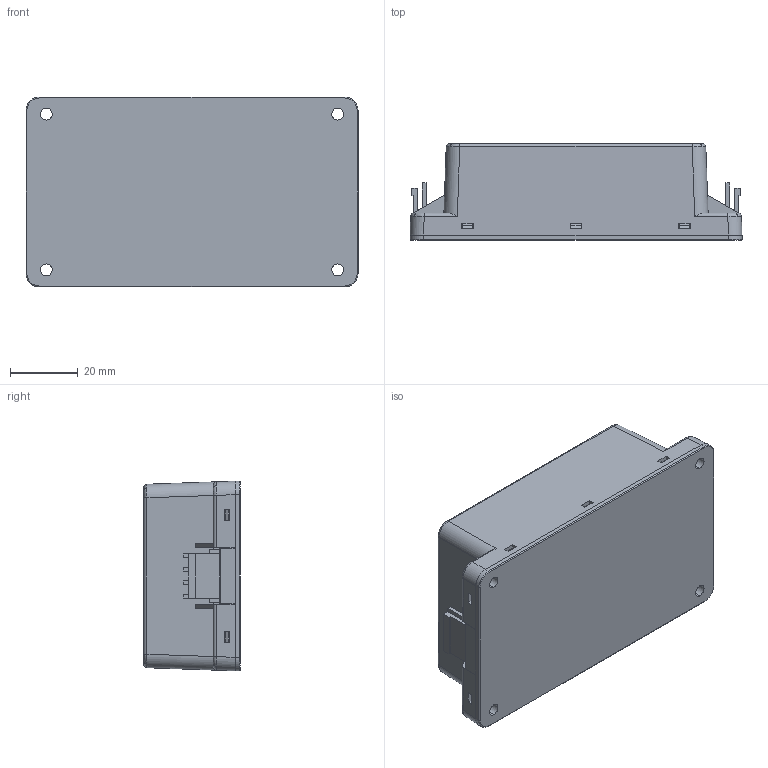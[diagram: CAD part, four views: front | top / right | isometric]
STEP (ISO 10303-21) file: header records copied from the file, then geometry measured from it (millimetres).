
FILE_DESCRIPTION (( 'STEP AP214' ), '1' );
FILE_NAME ('AMF-60S051CD(20240312).STEP', '2024-03-12T03:32:35', ( '' ), ( '' ), 'SwSTEP 2.0', 'SolidWorks 2021', '' );
FILE_SCHEMA (( 'AUTOMOTIVE_DESIGN' ));
Length unit declared in the file: millimetre
Products named in the file (9): AMF-60S051CD(20240312); AMF-60 Chassis Mounting °ÆªO²Õ¦XºÝ¤l-3D¤Ø¤o¥~Æ[¹Ï(20240311)_TRACO ºÝ¤l²Õ¦X(JST); B3P-VH; B4P-VH; (JST)-2PIN端子座; (JST)-4PIN端子座; AMF-60 Chassis Mounting BASE(082-BAMF-08)(2)-3D尺寸外觀圖(20240311); AMF-60 Chassis Mounting CASE(081-CAMF-06)(0)-3D尺寸外觀圖(20240311); AMF-60 IN_Output ¤j¥DªOPCB-3D¤Ø¤o¥~Æ[¹Ï(20240311)
Assembly tree (8 placements, depth 4):
  AMF-60S051CD(20240312)
    AMF-60 Chassis Mounting CASE(081-CAMF-06)(0)-3D尺寸外觀圖(20240311)
    AMF-60 Chassis Mounting BASE(082-BAMF-08)(2)-3D尺寸外觀圖(20240311)
    AMF-60 Chassis Mounting °ÆªO²Õ¦XºÝ¤l-3D¤Ø¤o¥~Æ[¹Ï(20240311)_TRACO ºÝ¤l²Õ¦X(JST)
      AMF-60 IN_Output ¤j¥DªOPCB-3D¤Ø¤o¥~Æ[¹Ï(20240311)
      (JST)-2PIN端子座
        B3P-VH
      (JST)-4PIN端子座
        B4P-VH
Bounding box: 98 x 28.5 x 56 mm (x, y, z)
Volume: 122639.2 mm3; surface area: 42585.8 mm2
Topology: 5 solids, 5 shells, 651 faces, 1774 edges, 1168 vertices
Faces by surface type: plane 432, cylinder 153, bspline 62, torus 4
Entity records: 23208 total; most frequent: CARTESIAN_POINT 5837, ORIENTED_EDGE 3548, DIRECTION 3134, EDGE_CURVE 1774, VECTOR 1340, LINE 1340, VERTEX_POINT 1168, AXIS2_PLACEMENT_3D 897
